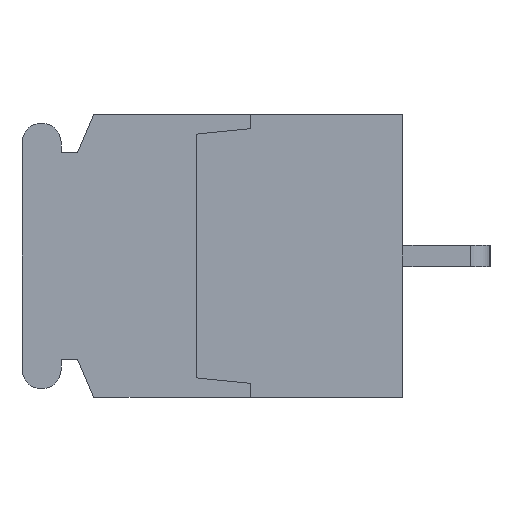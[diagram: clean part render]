
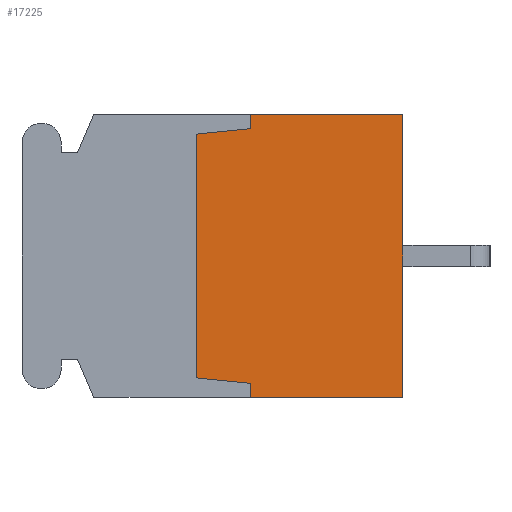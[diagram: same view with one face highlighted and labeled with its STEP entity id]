
A CAD part, left-side view. The second image highlights one B-rep face of the part: STEP entity #17225.
In plain terms, the highlighted planar face has unit normal (-1, 0, 0).
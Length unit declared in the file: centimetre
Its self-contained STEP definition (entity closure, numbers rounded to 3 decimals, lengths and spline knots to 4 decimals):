
#1130=VERTEX_POINT('',#22154);
#1133=VERTEX_POINT('',#22159);
#1167=VERTEX_POINT('',#22230);
#1221=VERTEX_POINT('',#22359);
#2429=VERTEX_POINT('',#26905);
#2430=VERTEX_POINT('',#26907);
#2431=VERTEX_POINT('',#26909);
#2432=VERTEX_POINT('',#26911);
#2836=VECTOR('',#18343,1.);
#2871=VECTOR('',#18379,1.);
#2935=VECTOR('',#18459,1.);
#4263=VECTOR('',#21350,1.);
#4264=VECTOR('',#21351,1.);
#4265=VECTOR('',#21352,1.);
#4266=VECTOR('',#21353,1.);
#4267=VECTOR('',#21354,1.);
#4734=LINE('',#22160,#2836);
#4769=LINE('',#22229,#2871);
#4833=LINE('',#22360,#2935);
#6161=LINE('',#26904,#4263);
#6162=LINE('',#26906,#4264);
#6163=LINE('',#26908,#4265);
#6164=LINE('',#26910,#4266);
#6165=LINE('',#26912,#4267);
#6676=EDGE_CURVE('',#1133,#1130,#4734,.T.);
#6711=EDGE_CURVE('',#1130,#1167,#4769,.T.);
#6777=EDGE_CURVE('',#1221,#1133,#4833,.T.);
#8637=EDGE_CURVE('',#2429,#1221,#6161,.T.);
#8638=EDGE_CURVE('',#2430,#2429,#6162,.T.);
#8639=EDGE_CURVE('',#2431,#2430,#6163,.T.);
#8640=EDGE_CURVE('',#2432,#2431,#6164,.T.);
#8641=EDGE_CURVE('',#1167,#2432,#6165,.T.);
#13289=ORIENTED_EDGE('',*,*,#6676,.F.);
#13290=ORIENTED_EDGE('',*,*,#6777,.F.);
#13291=ORIENTED_EDGE('',*,*,#8637,.F.);
#13292=ORIENTED_EDGE('',*,*,#8638,.F.);
#13293=ORIENTED_EDGE('',*,*,#8639,.F.);
#13294=ORIENTED_EDGE('',*,*,#8640,.F.);
#13295=ORIENTED_EDGE('',*,*,#8641,.F.);
#13296=ORIENTED_EDGE('',*,*,#6711,.F.);
#15166=EDGE_LOOP('',(#13289,#13290,#13291,#13292,#13293,#13294,#13295,#13296));
#16246=FACE_BOUND('',#15166,.T.);
#17225=ADVANCED_FACE('',(#16246),#18003,.F.);
#18003=PLANE('',#29527);
#18343=DIRECTION('',(0.,0.,-1.));
#18379=DIRECTION('',(0.,1.,0.));
#18459=DIRECTION('',(0.,-1.,0.));
#21349=DIRECTION('',(1.,0.,0.));
#21350=DIRECTION('',(0.,0.,1.));
#21351=DIRECTION('',(0.,-0.995,0.1));
#21352=DIRECTION('',(0.,0.,1.));
#21353=DIRECTION('',(0.,0.995,0.1));
#21354=DIRECTION('',(0.,0.,1.));
#22154=CARTESIAN_POINT('',(-1.07,0.,-0.65));
#22159=CARTESIAN_POINT('',(-1.07,0.,0.65));
#22160=CARTESIAN_POINT('',(-1.07,0.,0.65));
#22229=CARTESIAN_POINT('',(-1.07,0.,-0.65));
#22230=CARTESIAN_POINT('',(-1.07,0.7,-0.65));
#22359=CARTESIAN_POINT('',(-1.07,0.7,0.65));
#22360=CARTESIAN_POINT('',(-1.07,0.7,0.65));
#26903=CARTESIAN_POINT('',(-1.07,0.4626,0.));
#26904=CARTESIAN_POINT('',(-1.07,0.7,0.585));
#26905=CARTESIAN_POINT('',(-1.07,0.7,0.585));
#26906=CARTESIAN_POINT('',(-1.07,0.95,0.56));
#26907=CARTESIAN_POINT('',(-1.07,0.95,0.56));
#26908=CARTESIAN_POINT('',(-1.07,0.95,-0.56));
#26909=CARTESIAN_POINT('',(-1.07,0.95,-0.56));
#26910=CARTESIAN_POINT('',(-1.07,0.7,-0.585));
#26911=CARTESIAN_POINT('',(-1.07,0.7,-0.585));
#26912=CARTESIAN_POINT('',(-1.07,0.7,-0.65));
#29527=AXIS2_PLACEMENT_3D('',#26903,#21349,$);
